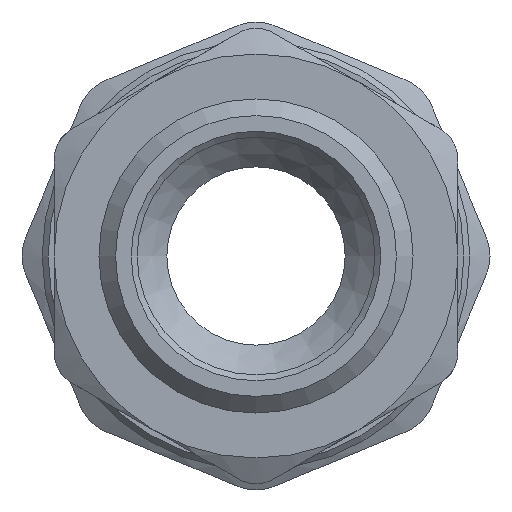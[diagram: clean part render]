
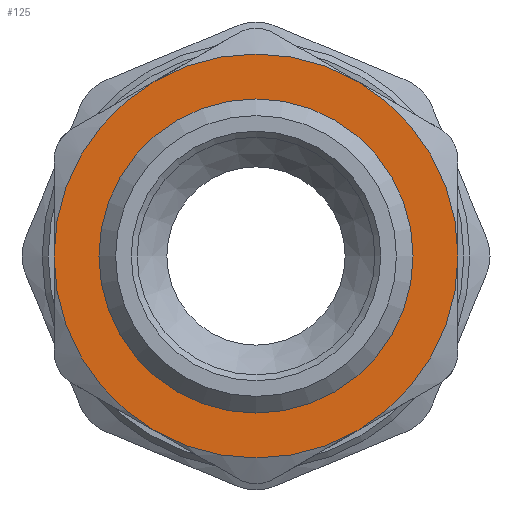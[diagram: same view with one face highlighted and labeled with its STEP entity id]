
A CAD part, front view. The second image highlights one B-rep face of the part: STEP entity #125.
In plain terms, the highlighted planar face has unit normal (0, -1, 0).
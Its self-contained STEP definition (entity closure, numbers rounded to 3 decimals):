
#125=ADVANCED_FACE('',(#920,#922),#924,.T.);
#920=FACE_BOUND('',#921,.T.);
#921=EDGE_LOOP('',(#2956,#2957,#2958,#2959,#2960));
#922=FACE_BOUND('',#923,.T.);
#923=EDGE_LOOP('',(#2961));
#924=PLANE('',#925);
#925=AXIS2_PLACEMENT_3D('',#926,#927,#928);
#926=CARTESIAN_POINT('',(0.,14.,0.));
#927=DIRECTION('',(0.,-1.,0.));
#928=DIRECTION('',(1.,0.,0.));
#2956=ORIENTED_EDGE('',*,*,#4773,.T.);
#2957=ORIENTED_EDGE('',*,*,#4772,.T.);
#2958=ORIENTED_EDGE('',*,*,#4771,.T.);
#2959=ORIENTED_EDGE('',*,*,#4770,.T.);
#2960=ORIENTED_EDGE('',*,*,#4774,.T.);
#2961=ORIENTED_EDGE('',*,*,#4778,.T.);
#4770=EDGE_CURVE('',#5646,#5684,#5696,.F.);
#4771=EDGE_CURVE('',#5660,#5646,#5697,.F.);
#4772=EDGE_CURVE('',#5668,#5660,#5698,.F.);
#4773=EDGE_CURVE('',#5676,#5668,#5699,.F.);
#4774=EDGE_CURVE('',#5684,#5676,#5700,.F.);
#4778=EDGE_CURVE('',#5707,#5707,#5708,.T.);
#5646=VERTEX_POINT('',#8217);
#5660=VERTEX_POINT('',#8436);
#5668=VERTEX_POINT('',#8548);
#5676=VERTEX_POINT('',#8663);
#5684=VERTEX_POINT('',#8775);
#5696=CIRCLE('',#8898,17.);
#5697=CIRCLE('',#8902,17.);
#5698=CIRCLE('',#8906,17.);
#5699=CIRCLE('',#8910,17.);
#5700=CIRCLE('',#8914,17.);
#5707=VERTEX_POINT('',#8933);
#5708=CIRCLE('',#8934,13.221);
#8217=CARTESIAN_POINT('',(-17.,14.,0.));
#8436=CARTESIAN_POINT('',(8.5,14.,14.722));
#8548=CARTESIAN_POINT('',(17.,14.,0.));
#8663=CARTESIAN_POINT('',(8.5,14.,-14.722));
#8775=CARTESIAN_POINT('',(-8.5,14.,-14.722));
#8898=AXIS2_PLACEMENT_3D('',#8899,#8900,#8901);
#8899=CARTESIAN_POINT('',(0.,14.,0.));
#8900=DIRECTION('',(0.,1.,0.));
#8901=DIRECTION('',(-0.5,0.,-0.866));
#8902=AXIS2_PLACEMENT_3D('',#8903,#8904,#8905);
#8903=CARTESIAN_POINT('',(0.,14.,0.));
#8904=DIRECTION('',(0.,1.,0.));
#8905=DIRECTION('',(-1.,0.,0.));
#8906=AXIS2_PLACEMENT_3D('',#8907,#8908,#8909);
#8907=CARTESIAN_POINT('',(0.,14.,0.));
#8908=DIRECTION('',(0.,1.,0.));
#8909=DIRECTION('',(0.5,0.,0.866));
#8910=AXIS2_PLACEMENT_3D('',#8911,#8912,#8913);
#8911=CARTESIAN_POINT('',(0.,14.,0.));
#8912=DIRECTION('',(0.,1.,0.));
#8913=DIRECTION('',(1.,0.,0.));
#8914=AXIS2_PLACEMENT_3D('',#8915,#8916,#8917);
#8915=CARTESIAN_POINT('',(0.,14.,0.));
#8916=DIRECTION('',(0.,1.,0.));
#8917=DIRECTION('',(0.5,0.,-0.866));
#8933=CARTESIAN_POINT('',(-13.221,14.,0.));
#8934=AXIS2_PLACEMENT_3D('',#8935,#8936,#8937);
#8935=CARTESIAN_POINT('',(0.,14.,0.));
#8936=DIRECTION('',(0.,1.,0.));
#8937=DIRECTION('',(-1.,0.,0.));
